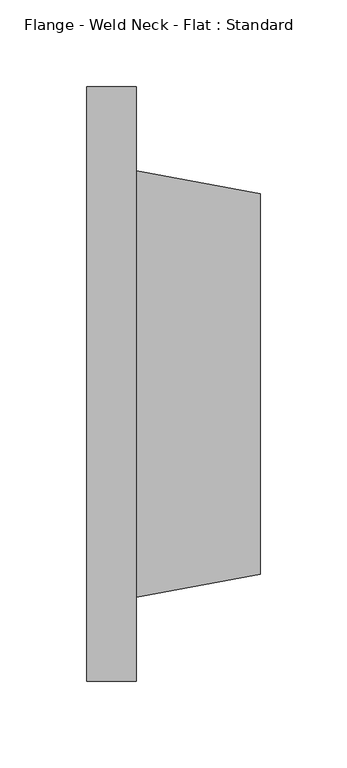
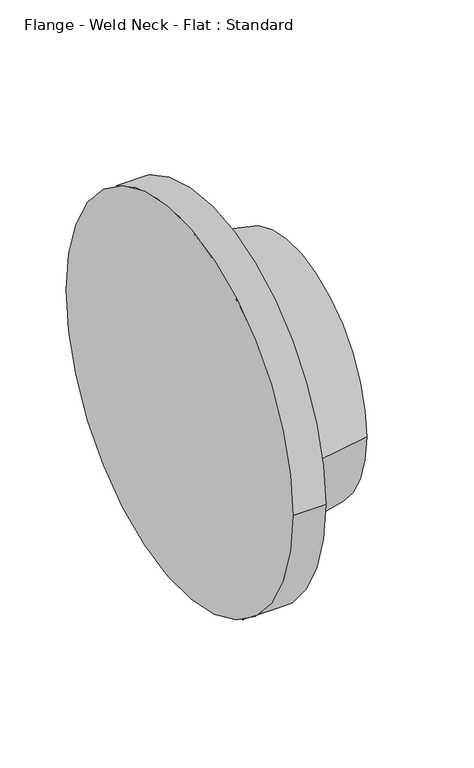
"""IFC4 building model written with IfcOpenShell, lengths in millimetres: valve geometry, Flange - Weld Neck - Flat : Standard."""

from ifc_helpers import new_model, si_unit, frame, origin, place, context, project, spatial, polyline, circle_curve, source, transform, mapped, element, save
from ifc_brep_helpers import plane_surface, cylinder_surface, revolved_surface, advanced_brep


def flange_weld_neck_flat_standard_e0d1736b(model_context):
    return source(origin(), model_context, "Body", "AdvancedBrep", [
        advanced_brep(
        [(1.5875, -171.45, 0.0), (1.5875, 171.45, 0.0), (30.1625, -171.45, 0.0), (30.1625, 171.45, 0.0), (30.1625, 123.03125, 0.0), (30.1625, -123.03125, 0.0), (101.6, -109.601, 0.0), (101.6, 109.601, 0.0)],
        [
            (0, 1, circle_curve(frame((1.5875, 0.0, 0.0), z_axis=(-1.0, 0.0, 0.0), x_axis=(0.0, 1.0, 0.0)), 171.45)),
            (1, 0, circle_curve(frame((1.5875, 0.0, 0.0), z_axis=(-1.0, 0.0, 0.0), x_axis=(0.0, 1.0, 0.0)), 171.45)),
            (2, 3, circle_curve(frame((30.1625, 0.0, 0.0), z_axis=(1.0, 0.0, 0.0), x_axis=(0.0, 1.0, 0.0)), 171.45)),
            (3, 2, circle_curve(frame((30.1625, 0.0, 0.0), z_axis=(1.0, 0.0, 0.0), x_axis=(0.0, 1.0, 0.0)), 171.45)),
            (4, 5, circle_curve(frame((30.1625, 0.0, 0.0), z_axis=(-1.0, 0.0, 0.0), x_axis=(0.0, -1.0, 0.0)), 123.03125)),
            (5, 4, circle_curve(frame((30.1625, 0.0, 0.0), z_axis=(-1.0, 0.0, 0.0), x_axis=(0.0, 1.0, 0.0)), 123.03125)),
            (0, 2),
            (3, 1),
            (6, 7, circle_curve(frame((101.6, 0.0, 0.0), z_axis=(1.0, 0.0, 0.0), x_axis=(0.0, -1.0, 0.0)), 109.601)),
            (7, 6, circle_curve(frame((101.6, 0.0, 0.0), z_axis=(1.0, 0.0, 0.0), x_axis=(0.0, 1.0, 0.0)), 109.601)),
            (6, 5),
            (4, 7),
        ],
        [
            plane_surface(frame((1.5875, 0.0, 0.0), z_axis=(-1.0, 0.0, 0.0), x_axis=(0.0, 0.0, 1.0))),
            plane_surface(frame((30.1625, 0.0, 0.0), z_axis=(1.0, 0.0, 0.0), x_axis=(0.0, 0.0, 1.0))),
            cylinder_surface(frame((1.5875, 0.0, 0.0), z_axis=(-1.0, 0.0, 0.0), x_axis=(0.0, 1.0, 0.0)), 171.45),
            plane_surface(frame((101.6, 0.0, 0.0), z_axis=(1.0, 0.0, 0.0), x_axis=(0.0, 0.0, -1.0))),
            revolved_surface(polyline([(101.60000000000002, -109.60100000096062, 0.0), (30.162500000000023, -123.03125, 0.0)]), (684.5840426, 0.0, 0.0), (-1.0, 0.0, 0.0)),
            revolved_surface(polyline([(101.60000000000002, 109.60100000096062, 0.0), (30.162500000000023, 123.03125, 0.0)]), (684.5840426, 0.0, 0.0), (-1.0, 0.0, 0.0)),
        ],
        [
            (0, [[1, 2]]),
            (1, [[3, 4], [5, 6]]),
            (2, [[-1, 7, -4, 8]]),
            (2, [[-2, -8, -3, -7]]),
            (3, [[9, 10]]),
            (4, [[-9, 11, -5, 12]]),
            (5, [[-10, -12, -6, -11]]),
        ],
    ),
    ])


if __name__ == "__main__":
    model = new_model("IFC4")
    model_context = context("Model", 3, world=origin())
    ifc_project = project(units=[si_unit("LENGTHUNIT", "METRE", prefix="MILLI")], contexts=[model_context])
    site = spatial("IfcSite", under=ifc_project)
    building = spatial("IfcBuilding", under=site)
    placement = place(None, origin())
    flange_weld_neck_flat_standard_shape = flange_weld_neck_flat_standard_e0d1736b(model_context)
    element("IfcValve", 1, ObjectType="Flange - Weld Neck - Flat : Standard", at=placement, inside=building, context=model_context, shape_type="MappedRepresentation", body=[
        mapped(flange_weld_neck_flat_standard_shape, transform((0.0, 0.0, 0.0), x_axis=(1.0, 0.0, 0.0), y_axis=(0.0, 1.0, 0.0), z_axis=(0.0, 0.0, 1.0))),
    ])
    save(model, "model.ifc")
